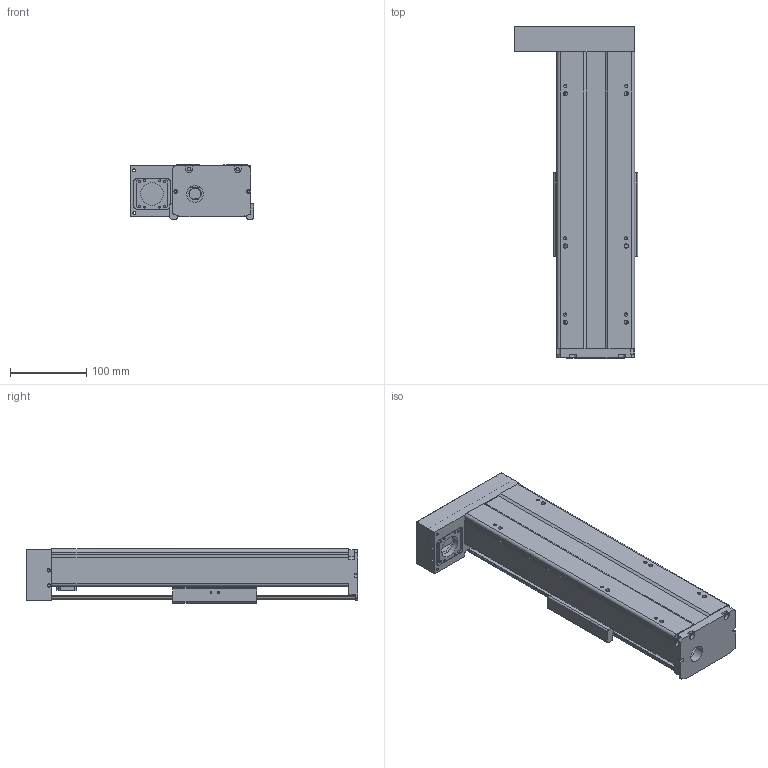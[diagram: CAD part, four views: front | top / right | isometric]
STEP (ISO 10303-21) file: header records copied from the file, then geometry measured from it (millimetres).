
FILE_DESCRIPTION(/* description */ (''),/* implementation_level */ '2;1');
FILE_NAME(/* name */ 'TKA100-FL-200_asm1.stp',/* time_stamp */ '2016-05-17T14:37:35+08:00',/* author */ (''),/* organization */ (''),/* preprocessor_version */ 'ST-DEVELOPER v15',/* originating_system */ 'SIEMENS PLM Software NX 8.5',/* authorisation */ '');
FILE_SCHEMA (('AUTOMOTIVE_DESIGN { 1 0 10303 214 3 1 1 1 }'));
Length unit declared in the file: millimetre
Products named in the file (3): 200-2; 200-1; TKA100-FL-200_asm1
Assembly tree (2 placements, depth 2):
  TKA100-FL-200_asm1
    200-1
    200-2
Bounding box: 162 x 436 x 71 mm (x, y, z)
Volume: 1143517 mm3; surface area: 392517.9 mm2
Topology: 2 solids, 16 shells, 776 faces, 2010 edges, 1306 vertices
Faces by surface type: plane 315, cylinder 290, cone 117, torus 28, bspline 26
Full cylindrical faces by diameter (mm): 2.5 x6, 2.6 x8, 3.3 x11, 3.4 x4, 3.8 x8, 4.2 x15, 4.3 x4, 4.5 x10, 5 x2, 5.5 x14, 6.6 x4, 8 x4, 9 x6, 10 x4, 11 x4, 12 x6, 15.3 x1, 16 x1, 22 x1, 24 x1, 28 x2, 30 x1, 33 x1
Entity records: 28634 total; most frequent: CARTESIAN_POINT 10552, DIRECTION 3701, ORIENTED_EDGE 3536, EDGE_CURVE 1768, AXIS2_PLACEMENT_3D 1451, VERTEX_POINT 1244, EDGE_LOOP 1057, LINE 799
